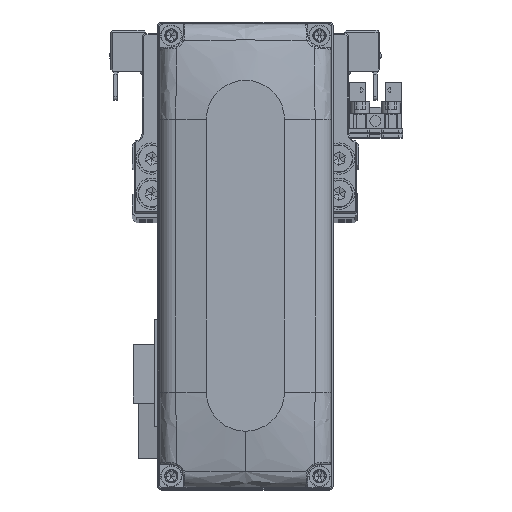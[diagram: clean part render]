
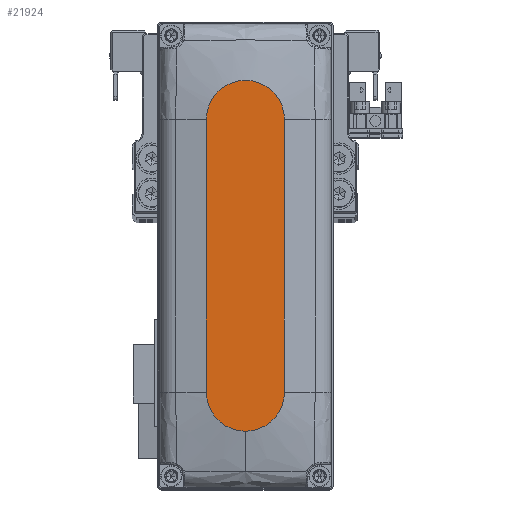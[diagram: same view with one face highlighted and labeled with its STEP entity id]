
A CAD part, top view. The second image highlights one B-rep face of the part: STEP entity #21924.
In plain terms, the highlighted planar face has unit normal (0, 0, 1).
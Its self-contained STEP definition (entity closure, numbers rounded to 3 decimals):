
#1091 = DIRECTION ( 'NONE',  ( 1., 0., 0. ) ) ;
#1686 = ORIENTED_EDGE ( 'NONE', *, *, #28788, .T. ) ;
#3754 = EDGE_CURVE ( 'NONE', #7490, #15318, #34645, .T. ) ;
#5507 = EDGE_LOOP ( 'NONE', ( #1686, #30920, #19063, #40174, #26594 ) ) ;
#6259 = VECTOR ( 'NONE', #39811, 1000. ) ;
#7490 = VERTEX_POINT ( 'NONE', #21815 ) ;
#7779 = DIRECTION ( 'NONE',  ( 1., 0., 0. ) ) ;
#8285 = CARTESIAN_POINT ( 'NONE',  ( 35., 0., 28. ) ) ;
#8777 = CARTESIAN_POINT ( 'NONE',  ( -35., 0., 28. ) ) ;
#10417 = AXIS2_PLACEMENT_3D ( 'NONE', #8777, #21189, #33640 ) ;
#11655 = DIRECTION ( 'NONE',  ( 0., 0., 1. ) ) ;
#14698 = FACE_OUTER_BOUND ( 'NONE', #5507, .T. ) ;
#14964 = LINE ( 'NONE', #27398, #6259 ) ;
#15318 = VERTEX_POINT ( 'NONE', #35120 ) ;
#16571 = LINE ( 'NONE', #29002, #33307 ) ;
#16717 = VERTEX_POINT ( 'NONE', #22271 ) ;
#17088 = AXIS2_PLACEMENT_3D ( 'NONE', #8285, #20705, #33155 ) ;
#17525 = VERTEX_POINT ( 'NONE', #31718 ) ;
#17705 = AXIS2_PLACEMENT_3D ( 'NONE', #39541, #11655, #24080 ) ;
#19063 = ORIENTED_EDGE ( 'NONE', *, *, #23923, .T. ) ;
#20705 = DIRECTION ( 'NONE',  ( 0., 0., 1. ) ) ;
#21189 = DIRECTION ( 'NONE',  ( 0., 0., 1. ) ) ;
#21815 = CARTESIAN_POINT ( 'NONE',  ( 35., -10., 28. ) ) ;
#21924 = ADVANCED_FACE ( 'NONE', ( #14698 ), #27135, .T. ) ;
#22271 = CARTESIAN_POINT ( 'NONE',  ( 35., 10., 28. ) ) ;
#22608 = AXIS2_PLACEMENT_3D ( 'NONE', #23247, #35689, #7779 ) ;
#23247 = CARTESIAN_POINT ( 'NONE',  ( 35., 0., 28. ) ) ;
#23923 = EDGE_CURVE ( 'NONE', #27645, #7490, #16571, .T. ) ;
#24080 = DIRECTION ( 'NONE',  ( 1., 0., 0. ) ) ;
#26594 = ORIENTED_EDGE ( 'NONE', *, *, #30834, .T. ) ;
#27135 = PLANE ( 'NONE',  #17705 ) ;
#27398 = CARTESIAN_POINT ( 'NONE',  ( -35., 10., 28. ) ) ;
#27645 = VERTEX_POINT ( 'NONE', #40194 ) ;
#27958 = CIRCLE ( 'NONE', #10417, 10. ) ;
#28788 = EDGE_CURVE ( 'NONE', #16717, #17525, #14964, .T. ) ;
#29002 = CARTESIAN_POINT ( 'NONE',  ( -35., -10., 28. ) ) ;
#30834 = EDGE_CURVE ( 'NONE', #15318, #16717, #40166, .T. ) ;
#30920 = ORIENTED_EDGE ( 'NONE', *, *, #37494, .T. ) ;
#31718 = CARTESIAN_POINT ( 'NONE',  ( -35., 10., 28. ) ) ;
#33155 = DIRECTION ( 'NONE',  ( 1., 0., 0. ) ) ;
#33307 = VECTOR ( 'NONE', #1091, 1000. ) ;
#33640 = DIRECTION ( 'NONE',  ( 1., 0., 0. ) ) ;
#34645 = CIRCLE ( 'NONE', #17088, 10. ) ;
#35120 = CARTESIAN_POINT ( 'NONE',  ( 45., 0., 28. ) ) ;
#35689 = DIRECTION ( 'NONE',  ( 0., 0., 1. ) ) ;
#37494 = EDGE_CURVE ( 'NONE', #17525, #27645, #27958, .T. ) ;
#39541 = CARTESIAN_POINT ( 'NONE',  ( 0., 0., 28. ) ) ;
#39811 = DIRECTION ( 'NONE',  ( -1., 0., 0. ) ) ;
#40166 = CIRCLE ( 'NONE', #22608, 10. ) ;
#40174 = ORIENTED_EDGE ( 'NONE', *, *, #3754, .T. ) ;
#40194 = CARTESIAN_POINT ( 'NONE',  ( -35., -10., 28. ) ) ;
